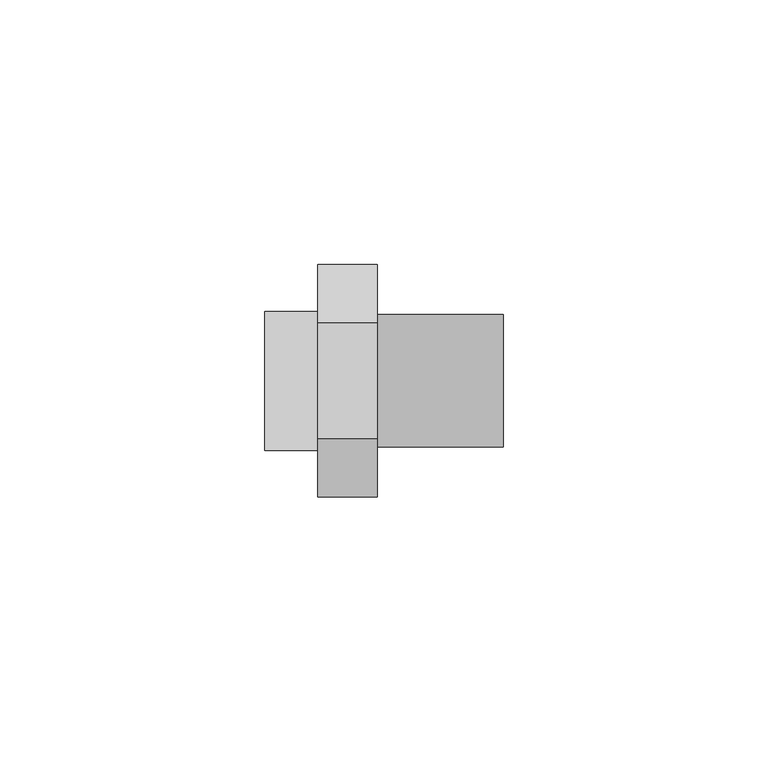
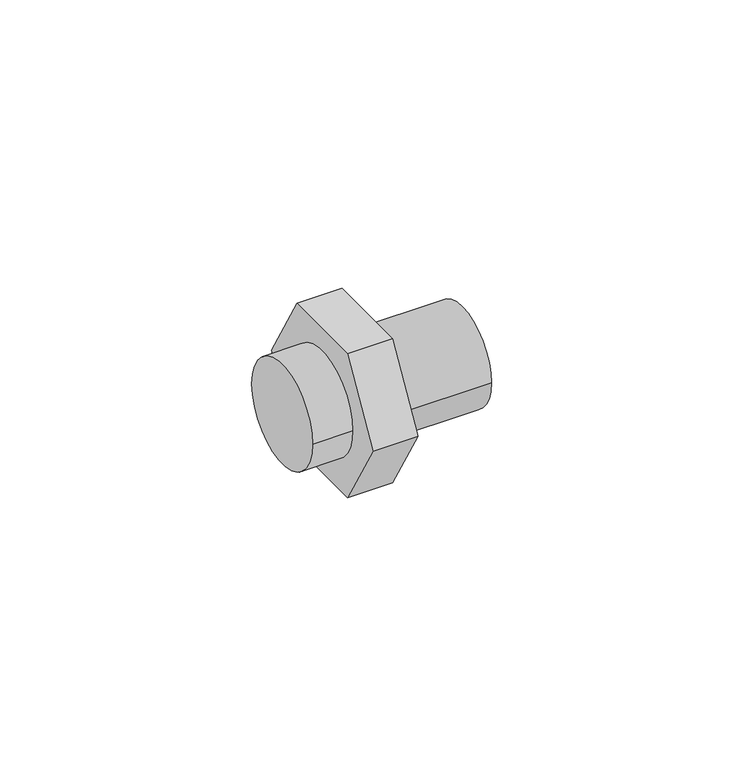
"""IFC4 building model written with IfcOpenShell, lengths in millimetres: pipe fitting geometry, 01101008 : Manguitos multiplos H/M/H."""

import ifcopenshell
import ifcopenshell.guid

model = None  # the IFC model being written
_history = None  # IfcOwnerHistory: only IFC2X3 demands one
_inside = {}  # id of a spatial element -> (the spatial element, [elements in it])
_under = {}  # id of a project, library or spatial element -> (it, [spatial elements below it])
_declared = {}  # id of a project -> (the project, [libraries it declares])
_typed = {}  # id of a type object -> (the type object, [elements of that type])
_made_of = {}  # id of a material, layer set ... -> (it, [elements and type objects made of it])


def new_model(schema):
    """Start an empty IFC model of exactly this schema.

    Asked for "IFC4X3", IfcOpenShell would pick the latest addendum, in which some entities
    have other attributes; the version numbers below select the first issue.
    IFC2X3 requires an IfcOwnerHistory on every rooted entity: one is made here for all.
    """
    global model, _history
    if schema == "IFC4X3":
        model = ifcopenshell.file(schema_version=(4, 3, 0, 0))
    else:
        model = ifcopenshell.file(schema=schema)
    _inside.clear()
    _under.clear()
    _declared.clear()
    _typed.clear()
    _made_of.clear()
    _history = None
    if model.schema == "IFC2X3":
        org = make("IfcOrganization", Name="unknown")
        user = make(
            "IfcPersonAndOrganization",
            ThePerson=make("IfcPerson", FamilyName="unknown"),
            TheOrganization=org,
        )
        app = make(
            "IfcApplication",
            ApplicationDeveloper=org,
            Version="unknown",
            ApplicationFullName="unknown",
            ApplicationIdentifier="unknown",
        )
        _history = make(
            "IfcOwnerHistory",
            OwningUser=user,
            OwningApplication=app,
            ChangeAction="ADDED",
            CreationDate=0,
        )
    return model


def make(cls, **values):
    """One entity of the class cls with the attributes given. An attribute that is None is left unset."""
    return model.create_entity(
        cls, **{name: value for name, value in values.items() if value is not None}
    )


def rooted(cls, **values):
    """An entity with a GlobalId (a new one), such as an element, a storey or a relation."""
    return make(cls, GlobalId=ifcopenshell.guid.new(), OwnerHistory=_history, **values)


def si_unit(unit_type, name, prefix=None):
    """IfcSIUnit, for example si_unit("LENGTHUNIT", "METRE", prefix="MILLI")."""
    return make("IfcSIUnit", UnitType=unit_type, Prefix=prefix, Name=name)


def assignment(units):
    """IfcUnitAssignment: the units of a project."""
    return None if units is None else make("IfcUnitAssignment", Units=units)


def point(xyz):
    """IfcCartesianPoint."""
    return None if xyz is None else make("IfcCartesianPoint", Coordinates=xyz)


def direction(xyz):
    """IfcDirection."""
    return None if xyz is None else make("IfcDirection", DirectionRatios=xyz)


def frame(location, z_axis=None, x_axis=None):
    """IfcAxis2Placement3D, a coordinate frame: its origin and axes. An axis left out is left unset."""
    return make(
        "IfcAxis2Placement3D",
        Location=point(location),
        Axis=direction(z_axis),
        RefDirection=direction(x_axis),
    )


def frame_2d(location, x_axis=None):
    """IfcAxis2Placement2D, a coordinate frame in the plane: its origin and x axis."""
    return make(
        "IfcAxis2Placement2D", Location=point(location), RefDirection=direction(x_axis)
    )


def origin():
    """The frame at (0, 0, 0) with its axes left unset."""
    return frame((0.0, 0.0, 0.0))


def origin_2d():
    """The frame at (0, 0) in the plane with its x axis left unset."""
    return frame_2d((0.0, 0.0))


def place(relative_to, where):
    """IfcLocalPlacement: puts the frame where relative to a parent placement (None: the world)."""
    return make(
        "IfcLocalPlacement", PlacementRelTo=relative_to, RelativePlacement=where
    )


def context(
    kind, dimensions, precision=None, world=None, true_north=None, identifier=None
):
    """IfcGeometricRepresentationContext, for example the 3D "Model" context."""
    return make(
        "IfcGeometricRepresentationContext",
        ContextIdentifier=identifier,
        ContextType=kind,
        CoordinateSpaceDimension=dimensions,
        Precision=precision,
        WorldCoordinateSystem=world,
        TrueNorth=true_north,
    )


def project(units=None, contexts=None):
    """IfcProject with its units and contexts."""
    return rooted(
        "IfcProject",
        Name="project",
        RepresentationContexts=contexts,
        UnitsInContext=assignment(units),
    )


def spatial(cls, under=None, at=None, **own):
    """A site, building, storey or space (cls), placed at a placement, below another one or the project."""
    s = rooted(cls, ObjectPlacement=at, **own)
    if under is not None:
        _under.setdefault(under.id(), (under, []))[1].append(s)
    return s


def polyline(points):
    """IfcPolyline through the points."""
    return make("IfcPolyline", Points=[point(p) for p in points])


def circle_curve(where, radius):
    """IfcCircle in the frame where."""
    return make("IfcCircle", Position=where, Radius=radius)


def trimmed(basis, trim1, trim2, sense, master):
    """IfcTrimmedCurve: the piece of a basis curve between two trims."""
    return make(
        "IfcTrimmedCurve",
        BasisCurve=basis,
        Trim1=trim1,
        Trim2=trim2,
        SenseAgreement=sense,
        MasterRepresentation=master,
    )


def segment(curve, same_sense, transition):
    """IfcCompositeCurveSegment."""
    return make(
        "IfcCompositeCurveSegment",
        Transition=transition,
        SameSense=same_sense,
        ParentCurve=curve,
    )


def composite_curve(segments, self_intersect=None):
    """IfcCompositeCurve: segments joined end to end."""
    return make("IfcCompositeCurve", Segments=segments, SelfIntersect=self_intersect)


def outline(outer, holes=None, kind="AREA"):
    """IfcArbitraryClosedProfileDef: a profile drawn as a closed curve; with holes, ...WithVoids."""
    if holes is None:
        return make("IfcArbitraryClosedProfileDef", ProfileType=kind, OuterCurve=outer)
    return make(
        "IfcArbitraryProfileDefWithVoids",
        ProfileType=kind,
        OuterCurve=outer,
        InnerCurves=holes,
    )


def extrude(swept, where, along, depth):
    """IfcExtrudedAreaSolid: the profile swept, set in the frame where, extruded along a direction by depth."""
    return make(
        "IfcExtrudedAreaSolid",
        SweptArea=swept,
        Position=where,
        ExtrudedDirection=direction(along),
        Depth=depth,
    )


def shape(context_of_items, identifier, shape_type, items):
    """IfcShapeRepresentation: the items that make up one representation, for example the "Body"."""
    return make(
        "IfcShapeRepresentation",
        ContextOfItems=context_of_items,
        RepresentationIdentifier=identifier,
        RepresentationType=shape_type,
        Items=items,
    )


def source(mapping_origin, context_of_items, identifier, shape_type, items):
    """IfcRepresentationMap: a shape defined once, which mapped items show again and again."""
    return make(
        "IfcRepresentationMap",
        MappingOrigin=mapping_origin,
        MappedRepresentation=shape(context_of_items, identifier, shape_type, items),
    )


def transform(
    local_origin,
    x_axis=None,
    y_axis=None,
    z_axis=None,
    scale=None,
    scale2=None,
    scale3=None,
    uniform=True,
):
    """IfcCartesianTransformationOperator3D, or its non-uniform kind. x_axis, y_axis, z_axis: its Axis1, 2, 3."""
    if uniform:
        return make(
            "IfcCartesianTransformationOperator3D",
            Axis1=direction(x_axis),
            Axis2=direction(y_axis),
            LocalOrigin=point(local_origin),
            Scale=scale,
            Axis3=direction(z_axis),
        )
    return make(
        "IfcCartesianTransformationOperator3DnonUniform",
        Axis1=direction(x_axis),
        Axis2=direction(y_axis),
        LocalOrigin=point(local_origin),
        Scale=scale,
        Axis3=direction(z_axis),
        Scale2=scale2,
        Scale3=scale3,
    )


def mapped(mapping_source, mapping_target):
    """IfcMappedItem: shows the shape of a source again, moved by a transform."""
    return make(
        "IfcMappedItem", MappingSource=mapping_source, MappingTarget=mapping_target
    )


def made_of(thing, what):
    """Note that an element or type object is made of a material, layer set ...; save() writes the relation."""
    if what is not None:
        _made_of.setdefault(what.id(), (what, []))[1].append(thing)
    return thing


def element(
    cls,
    number,
    at=None,
    inside=None,
    cuts=None,
    type_object=None,
    material=None,
    context=None,
    identifier="Body",
    shape_type=None,
    held_by="IfcProductDefinitionShape",
    body=None,
    shapes=None,
    **own,
):
    """One element of the class cls, such as IfcWall. Its Tag is "e" and its number.

    at: its placement. inside: the storey or other place that contains it. cuts: it is an
    opening in that element (IfcRelVoidsElement). A single representation is given by context,
    identifier, shape_type and body (its items); several are given by shapes. held_by: the class
    of the entity that holds the representations. save() writes the other relations.
    """
    e = rooted(cls, Tag="e%d" % number, ObjectPlacement=at, **own)
    if body is not None:
        shapes = [shape(context, identifier, shape_type, body)]
    if shapes is not None:
        e.Representation = make(held_by, Representations=shapes)
    if inside is not None:
        _inside.setdefault(inside.id(), (inside, []))[1].append(e)
    if cuts is not None:
        rooted(
            "IfcRelVoidsElement", RelatingBuildingElement=cuts, RelatedOpeningElement=e
        )
    if type_object is not None:
        _typed.setdefault(type_object.id(), (type_object, []))[1].append(e)
    return made_of(e, material)


def aggregate(whole, parts):
    """IfcRelAggregates: a whole, such as a stair, and the parts it consists of."""
    return rooted("IfcRelAggregates", RelatingObject=whole, RelatedObjects=parts)


def save(model, path):
    """Write the relations noted so far, then the file.

    IfcRelAggregates (storeys below a building ...), IfcRelContainedInSpatialStructure (elements
    in a storey), IfcRelDefinesByType, IfcRelAssociatesMaterial and IfcRelDeclares: one each for
    every whole, place, type object, material and project.
    """
    for whole, parts in _under.values():
        aggregate(whole, parts)
    for where, things in _inside.values():
        rooted(
            "IfcRelContainedInSpatialStructure",
            RelatedElements=things,
            RelatingStructure=where,
        )
    for kind, things in _typed.values():
        rooted("IfcRelDefinesByType", RelatedObjects=things, RelatingType=kind)
    for what, things in _made_of.values():
        rooted("IfcRelAssociatesMaterial", RelatedObjects=things, RelatingMaterial=what)
    for by, libraries in _declared.values():
        rooted("IfcRelDeclares", RelatingContext=by, RelatedDefinitions=libraries)
    model.write(path)


def pipe_fitting_fd204c97(model_context):
    return source(origin(), model_context, "Body", "SweptSolid", [
        extrude(outline(composite_curve([segment(trimmed(circle_curve(origin_2d(), 13.125), [point((13.125, 0.0))], [point((-13.125, 0.0))], False, "CARTESIAN"), True, "CONTINUOUS"), segment(trimmed(circle_curve(origin_2d(), 13.125), [point((-13.125, 0.0))], [point((13.125, 0.0))], False, "CARTESIAN"), True, "CONTINUOUS")], self_intersect=False)), frame((0.0, 0.0, 0.0), z_axis=(1.0, 0.0, 0.0), x_axis=(0.0, 1.0, 0.0)), (0.0, 0.0, 1.0), 10.0),
        extrude(outline(polyline([(-10.9696551, 19.0), (10.9696551, 19.0), (21.9393102, 0.0), (10.9696551, -19.0), (-10.9696551, -19.0), (-21.9393102, 0.0), (-10.9696551, 19.0)])), frame((10.0, 0.0, 0.0), z_axis=(1.0, 0.0, 0.0), x_axis=(0.0, 1.0, 0.0)), (0.0, 0.0, 1.0), 11.25),
        extrude(outline(composite_curve([segment(trimmed(circle_curve(origin_2d(), 12.5), [point((-12.5, 0.0))], [point((12.5, 0.0))], False, "CARTESIAN"), True, "CONTINUOUS"), segment(trimmed(circle_curve(origin_2d(), 12.5), [point((12.5, 0.0))], [point((-12.5, 0.0))], False, "CARTESIAN"), True, "CONTINUOUS")], self_intersect=False)), frame((21.25, 0.0, 0.0), z_axis=(1.0, 0.0, 0.0), x_axis=(0.0, 1.0, 0.0)), (0.0, 0.0, 1.0), 23.75),
    ])


if __name__ == "__main__":
    model = new_model("IFC4")
    model_context = context("Model", 3, world=origin())
    ifc_project = project(units=[si_unit("LENGTHUNIT", "METRE", prefix="MILLI")], contexts=[model_context])
    site = spatial("IfcSite", under=ifc_project)
    building = spatial("IfcBuilding", under=site)
    placement = place(None, origin())
    pipe_fitting_shape = pipe_fitting_fd204c97(model_context)
    element("IfcPipeFitting", 1, ObjectType="01101008 : Manguitos multiplos H/M/H", at=placement, inside=building, context=model_context, shape_type="MappedRepresentation", body=[
        mapped(pipe_fitting_shape, transform((0.0, 0.0, 0.0), x_axis=(1.0, 0.0, 0.0), y_axis=(0.0, 1.0, 0.0), z_axis=(0.0, 0.0, 1.0))),
    ])
    save(model, "model.ifc")
